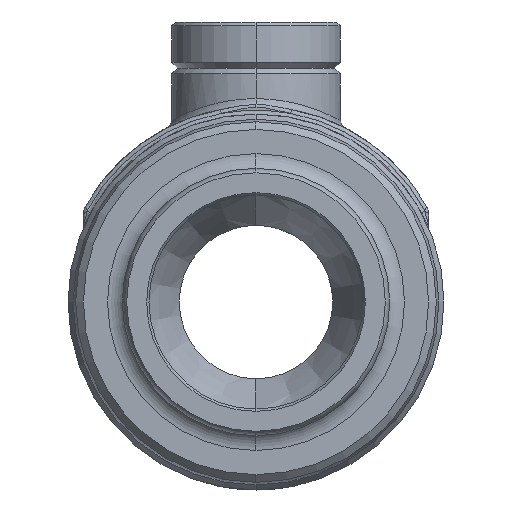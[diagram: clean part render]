
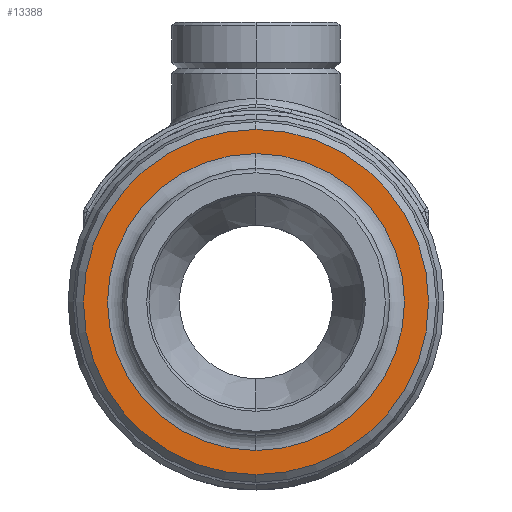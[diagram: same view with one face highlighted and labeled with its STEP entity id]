
A CAD part, left-side view. The second image highlights one B-rep face of the part: STEP entity #13388.
In plain terms, the highlighted planar face has unit normal (-1, 0, 0).
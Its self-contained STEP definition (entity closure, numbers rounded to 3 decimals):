
#3583=CARTESIAN_POINT('',(-39.,0.,0.));
#3584=DIRECTION('',(1.,0.,0.));
#3585=DIRECTION('',(0.,0.,1.));
#3586=AXIS2_PLACEMENT_3D('',#3583,#3584,#3585);
#3598=CARTESIAN_POINT('',(-39.,0.,0.));
#3599=DIRECTION('',(-1.,0.,0.));
#3600=DIRECTION('',(0.,0.,1.));
#3601=AXIS2_PLACEMENT_3D('',#3598,#3599,#3600);
#3603=CARTESIAN_POINT('',(-39.,0.,0.));
#3604=DIRECTION('',(1.,0.,0.));
#3605=DIRECTION('',(0.,0.,-1.));
#3606=AXIS2_PLACEMENT_3D('',#3603,#3604,#3605);
#3608=CARTESIAN_POINT('',(-39.,0.,0.));
#3609=DIRECTION('',(1.,0.,0.));
#3610=DIRECTION('',(0.,0.,1.));
#3611=AXIS2_PLACEMENT_3D('',#3608,#3609,#3610);
#6042=CARTESIAN_POINT('',(-39.,0.,19.35));
#6044=VERTEX_POINT('',#6042);
#6046=CARTESIAN_POINT('',(-39.,0.,-19.35));
#6048=VERTEX_POINT('',#6046);
#6054=CARTESIAN_POINT('',(-39.,0.,-22.5));
#6055=CARTESIAN_POINT('',(-39.,0.,22.5));
#6056=VERTEX_POINT('',#6054);
#6057=VERTEX_POINT('',#6055);
#13373=CARTESIAN_POINT('',(-39.,0.,0.));
#13374=DIRECTION('',(1.,0.,0.));
#13375=DIRECTION('',(0.,0.,1.));
#13376=AXIS2_PLACEMENT_3D('',#13373,#13374,#13375);
#13377=PLANE('',#13376);
#13379=ORIENTED_EDGE('',*,*,#13378,.T.);
#13381=ORIENTED_EDGE('',*,*,#13380,.T.);
#13382=EDGE_LOOP('',(#13379,#13381));
#13383=FACE_OUTER_BOUND('',#13382,.F.);
#13384=ORIENTED_EDGE('',*,*,#13368,.T.);
#13385=ORIENTED_EDGE('',*,*,#13352,.F.);
#13386=EDGE_LOOP('',(#13384,#13385));
#13387=FACE_BOUND('',#13386,.F.);
#13388=ADVANCED_FACE('',(#13383,#13387),#13377,.F.);
#3587=CIRCLE('',#3586,19.35);
#3602=CIRCLE('',#3601,19.35);
#3607=CIRCLE('',#3606,22.5);
#3612=CIRCLE('',#3611,22.5);
#13352=EDGE_CURVE('',#6044,#6048,#3587,.T.);
#13368=EDGE_CURVE('',#6044,#6048,#3602,.T.);
#13378=EDGE_CURVE('',#6056,#6057,#3607,.T.);
#13380=EDGE_CURVE('',#6057,#6056,#3612,.T.);
